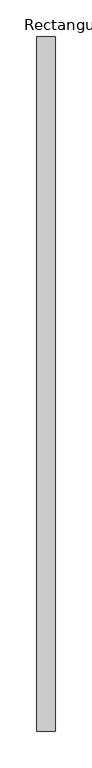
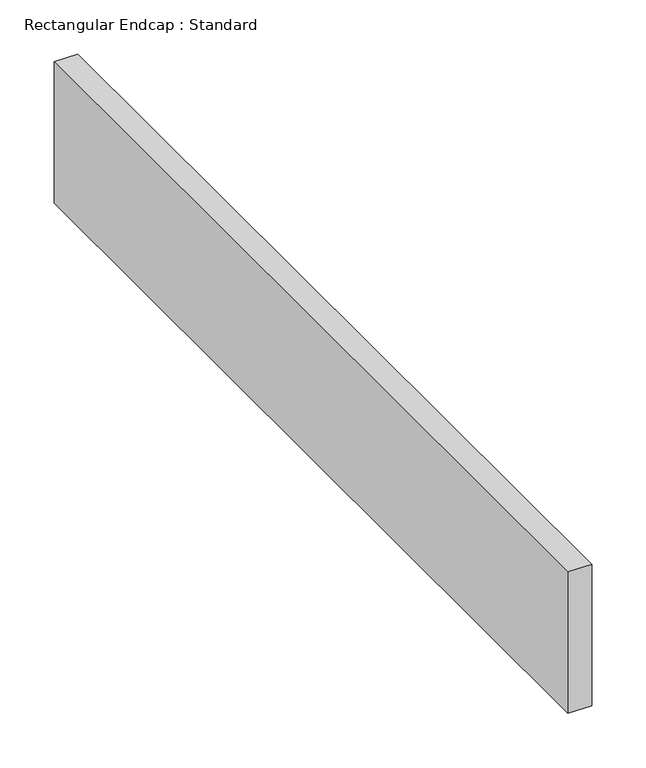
"""IFC4 building model written with IfcOpenShell, lengths in millimetres: duct fitting geometry, Rectangular Endcap : Standard."""

from ifc_helpers import new_model, si_unit, frame, origin, place, context, project, spatial, polyline, outline, extrude, source, transform, mapped, element, save


def rectangular_endcap_standard_7f0f3a90(model_context):
    return source(origin(), model_context, "Body", "SweptSolid", [
        extrude(outline(polyline([(0.0, -475.3), (0.0, 475.3), (25.4, 475.3), (25.4, -475.3), (0.0, -475.3)])), frame((0.0, 0.0, -79.9207031), z_axis=(0.0, 0.0, 1.0), x_axis=(1.0, 0.0, 0.0)), (0.0, 0.0, 1.0), 159.8414063),
    ])


if __name__ == "__main__":
    model = new_model("IFC4")
    model_context = context("Model", 3, world=origin())
    ifc_project = project(units=[si_unit("LENGTHUNIT", "METRE", prefix="MILLI")], contexts=[model_context])
    site = spatial("IfcSite", under=ifc_project)
    building = spatial("IfcBuilding", under=site)
    placement = place(None, origin())
    rectangular_endcap_standard_shape = rectangular_endcap_standard_7f0f3a90(model_context)
    element("IfcDuctFitting", 1, ObjectType="Rectangular Endcap : Standard", at=placement, inside=building, context=model_context, shape_type="MappedRepresentation", body=[
        mapped(rectangular_endcap_standard_shape, transform((0.0, 0.0, 0.0), x_axis=(1.0, 0.0, 0.0), y_axis=(0.0, 1.0, 0.0), z_axis=(0.0, 0.0, 1.0))),
    ])
    save(model, "model.ifc")
